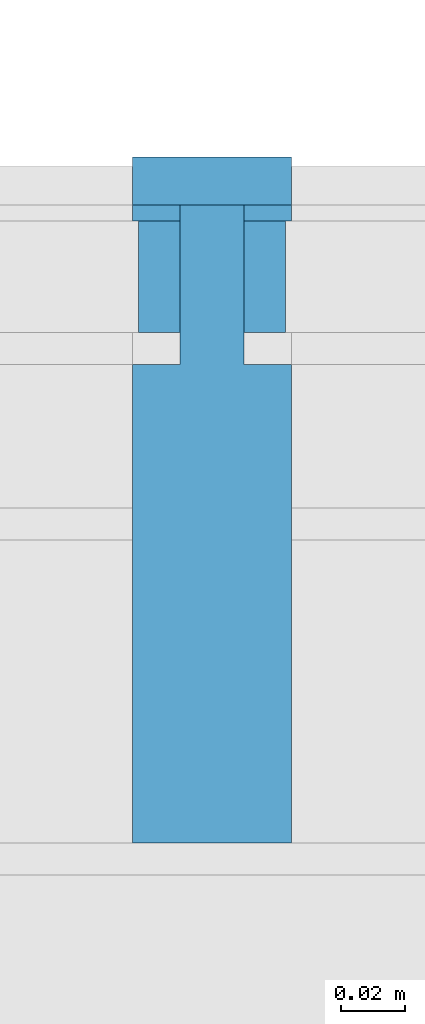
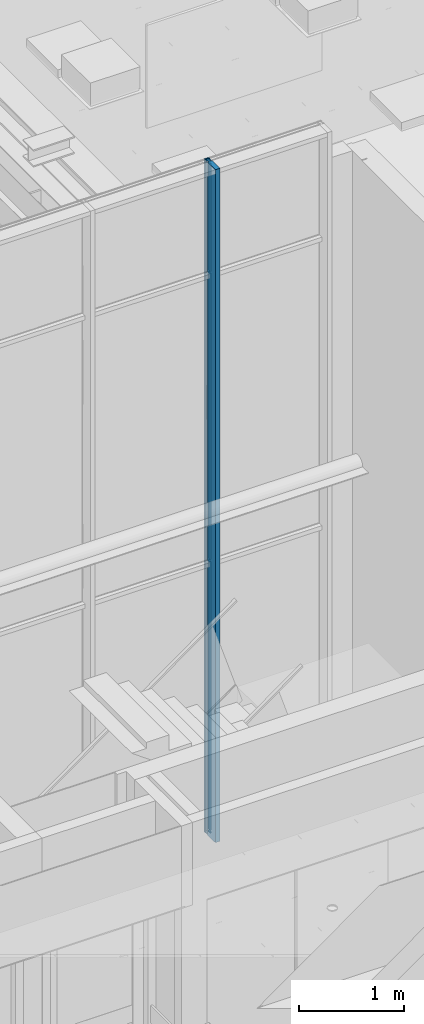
# One storey, part 107 of 347: 6 building element parts, 1 element without a shape of its own.
"""IFC2X3 building model written with IfcOpenShell, lengths in millimetres."""

from ifc_helpers import new_model, entity, si_unit, converted_unit, derived_unit, money_unit, direction, frame, origin_with_axes, place, context, subcontext, project, spatial, faceted_brep, material, type_object, element, aggregate, save


model = new_model("IFC2X3")

# Units and contexts
model_context = context("Model", 3, precision=0.01, world=origin_with_axes(), true_north=direction((0.0, 1.0)))
plan_context = context("Plan", 3, precision=0.01, world=origin_with_axes(), true_north=direction((0.0, 1.0)))
body_context = subcontext(model_context, "Body", "Model", "MODEL_VIEW")
ifc_project = project(units=[si_unit("LENGTHUNIT", "METRE", prefix="MILLI"), si_unit("AREAUNIT", "SQUARE_METRE"), si_unit("VOLUMEUNIT", "CUBIC_METRE"), converted_unit("PLANEANGLEUNIT", "DEGREE", entity("IfcPlaneAngleMeasure", 0.0174532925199), si_unit("PLANEANGLEUNIT", "RADIAN"), dimensions=[0, 0, 0, 0, 0, 0, 0]), money_unit("EUR"), converted_unit("TIMEUNIT", "Year", entity("IfcTimeMeasure", 31556926.0), si_unit("TIMEUNIT", "SECOND"), dimensions=[0, 0, 1, 0, 0, 0, 0]), si_unit("MASSUNIT", "GRAM", prefix="KILO"), si_unit("THERMODYNAMICTEMPERATUREUNIT", "DEGREE_CELSIUS"), si_unit("LUMINOUSINTENSITYUNIT", "LUMEN"), si_unit("ENERGYUNIT", "JOULE", prefix="MEGA"), derived_unit("THERMALCONDUCTANCEUNIT", [(si_unit("POWERUNIT", "WATT"), 1), (si_unit("LENGTHUNIT", "METRE"), -1), (si_unit("THERMODYNAMICTEMPERATUREUNIT", "KELVIN"), -1)]), derived_unit("SPECIFICHEATCAPACITYUNIT", [(si_unit("ENERGYUNIT", "JOULE"), 1), (si_unit("MASSUNIT", "GRAM", prefix="KILO"), -1), (si_unit("THERMODYNAMICTEMPERATUREUNIT", "KELVIN"), -1)]), derived_unit("MASSDENSITYUNIT", [(si_unit("MASSUNIT", "GRAM", prefix="KILO"), 1), (si_unit("VOLUMEUNIT", "CUBIC_METRE"), -1)])], contexts=[model_context, plan_context])

# Site, building, storey
site_placement = place(None, origin_with_axes())
site = spatial("IfcSite", under=ifc_project, at=site_placement, Name="Site", CompositionType="ELEMENT")
building_placement = place(site_placement, origin_with_axes())
building = spatial("IfcBuilding", under=site, at=building_placement, Name="Naam gebouw", CompositionType="ELEMENT")
storey_placement = place(building_placement, origin_with_axes())
storey = spatial("IfcBuildingStorey", under=building, at=storey_placement, Name="begane grond", CompositionType="ELEMENT", Elevation=0.0)

# Column, building element parts
column_type = type_object("IfcColumnType", Name="31 vliesgevelstijl 50 x 215", PredefinedType="COLUMN")
column_placement = place(storey_placement, frame((22575.0, 18400.0, 0.0), z_axis=(0.0, 0.0, 1.0), x_axis=(1.0, 0.0, 0.0)))
column = element("IfcColumn", 1, at=column_placement, inside=storey, type_object=column_type, Name="28_kolom ø 275mm", ObjectType="COLUMN")
ifc_material_1 = material(Name="Membraan - rubber")
building_element_part_1_placement = place(column_placement, origin_with_axes())
building_element_part_1 = element("IfcBuildingElementPart", 2, at=building_element_part_1_placement, material=ifc_material_1, Name="Membraan - rubber", context=body_context, shape_type="Brep", body=[
    faceted_brep([(-9.99999992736, 195.000000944, 7840.0), (-9.99999992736, 195.000000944, 7824.99999994), (-9.99999992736, 200.000001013, 7824.99999994), (-9.99999992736, 200.000000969, 7840.0), (-22.9999999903, 195.000000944, 7840.0), (-22.9999999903, 195.000000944, 7824.99999994), (-25.0, 195.000000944, 7824.99999994), (-25.0, 200.000001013, 7824.99999994), (-25.0, 200.000000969, 7840.0), (-25.0, 195.000000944, 7840.0)], [[[0, 1, 2, 3]], [[4, 5, 1, 0]], [[6, 7, 2, 1, 5]], [[3, 2, 7, 8]], [[3, 8, 9, 4, 0]], [[9, 6, 5, 4]], [[8, 7, 6, 9]]]),
    faceted_brep([(-25.0, 200.000000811, 14.9999997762), (-9.99999992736, 200.000000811, 14.9999997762), (-9.99999992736, 200.000000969, 0.0), (-25.0, 200.000000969, 0.0), (-9.99999992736, 195.000000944, 14.9999997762), (-25.0, 195.000000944, 14.9999997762), (-22.9999999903, 195.000000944, 14.9999997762), (-9.99999992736, 195.000000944, 0.0), (-22.9999999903, 195.000000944, 0.0), (-25.0, 195.000000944, 0.0)], [[[0, 1, 2, 3]], [[4, 1, 0, 5, 6]], [[1, 4, 7, 2]], [[8, 9, 3, 2, 7]], [[5, 0, 3, 9]], [[6, 5, 9, 8]], [[4, 6, 8, 7]]]),
    faceted_brep([(-25.0, 199.9999993, 3165.00000048), (-9.99999992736, 199.9999993, 3165.00000048), (-9.99999992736, 200.000000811, 35.0000005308), (-25.0, 200.000000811, 35.0000005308), (-9.99999992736, 195.000000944, 3165.00000048), (-25.0, 195.000000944, 3165.00000048), (-22.9999999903, 195.000000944, 3165.00000048), (-9.99999992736, 195.000000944, 35.0000005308), (-22.9999999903, 195.000000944, 35.0000005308), (-25.0, 195.000000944, 35.0000005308)], [[[0, 1, 2, 3]], [[4, 1, 0, 5, 6]], [[1, 4, 7, 2]], [[3, 2, 7, 8, 9]], [[5, 0, 3, 9]], [[6, 5, 9, 8]], [[4, 6, 8, 7]]]),
    faceted_brep([(-9.99999992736, 195.000000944, 6545.00000058), (-9.99999992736, 199.9999993, 6545.00000058), (-9.99999992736, 200.000001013, 7804.99999952), (-9.99999992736, 195.000000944, 7804.99999952), (-25.0, 199.9999993, 6545.00000058), (-22.9999999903, 195.000000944, 6545.00000058), (-25.0, 195.000000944, 6545.00000058), (-25.0, 200.000001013, 7804.99999952), (-25.0, 195.000000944, 7804.99999952), (-22.9999999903, 195.000000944, 7804.99999952)], [[[0, 1, 2, 3]], [[4, 1, 0, 5, 6]], [[1, 4, 7, 2]], [[3, 2, 7, 8, 9]], [[5, 0, 3, 9]], [[6, 5, 9, 8]], [[4, 6, 8, 7]]]),
    faceted_brep([(-9.99999992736, 195.000000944, 3185.00000058), (-9.99999992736, 199.9999993, 3185.00000058), (-9.99999992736, 199.9999993, 6525.00000048), (-9.99999992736, 195.000000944, 6525.00000048), (-25.0, 199.9999993, 3185.00000058), (-22.9999999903, 195.000000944, 3185.00000058), (-25.0, 195.000000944, 3185.00000058), (-25.0, 199.9999993, 6525.00000048), (-25.0, 195.000000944, 6525.00000048), (-22.9999999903, 195.000000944, 6525.00000048)], [[[0, 1, 2, 3]], [[4, 1, 0, 5, 6]], [[1, 4, 7, 2]], [[3, 2, 7, 8, 9]], [[5, 0, 3, 9]], [[6, 5, 9, 8]], [[4, 6, 8, 7]]]),
])
building_element_part_2_placement = place(column_placement, origin_with_axes())
building_element_part_2 = element("IfcBuildingElementPart", 3, at=building_element_part_2_placement, material=ifc_material_1, Name="Membraan - rubber", context=body_context, shape_type="Brep", body=[
    faceted_brep([(25.0000002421, 195.000000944, 7840.0), (25.0000002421, 195.000000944, 7824.99999994), (25.0000002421, 200.000001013, 7824.99999994), (25.0000002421, 200.000000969, 7840.0), (23.0000002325, 195.000000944, 7840.0), (23.0000002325, 195.000000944, 7824.99999994), (10.0000001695, 195.000000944, 7824.99999994), (10.0000001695, 200.000001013, 7824.99999994), (10.0000001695, 200.000000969, 7840.0), (10.0000001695, 195.000000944, 7840.0)], [[[0, 1, 2, 3]], [[4, 5, 1, 0]], [[6, 7, 2, 1, 5]], [[3, 2, 7, 8]], [[0, 3, 8, 9, 4]], [[9, 6, 5, 4]], [[8, 7, 6, 9]]]),
    faceted_brep([(10.0000001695, 200.000000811, 14.9999997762), (25.0000002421, 200.000000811, 14.9999997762), (25.0000002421, 200.000000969, 0.0), (10.0000001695, 200.000000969, 0.0), (25.0000002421, 195.000000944, 14.9999997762), (10.0000001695, 195.000000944, 14.9999997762), (23.0000002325, 195.000000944, 14.9999997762), (25.0000002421, 195.000000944, 0.0), (10.0000001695, 195.000000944, 0.0), (23.0000002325, 195.000000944, 0.0)], [[[0, 1, 2, 3]], [[4, 1, 0, 5, 6]], [[1, 4, 7, 2]], [[8, 3, 2, 7, 9]], [[5, 0, 3, 8]], [[6, 5, 8, 9]], [[4, 6, 9, 7]]]),
    faceted_brep([(10.0000001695, 199.9999993, 3165.00000048), (25.0000002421, 199.9999993, 3165.00000048), (25.0000002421, 200.000000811, 35.0000005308), (10.0000001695, 200.000000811, 35.0000005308), (25.0000002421, 195.000000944, 3165.00000048), (10.0000001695, 195.000000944, 3165.00000048), (23.0000002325, 195.000000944, 3165.00000048), (25.0000002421, 195.000000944, 35.0000005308), (23.0000002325, 195.000000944, 35.0000005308), (10.0000001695, 195.000000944, 35.0000005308)], [[[0, 1, 2, 3]], [[4, 1, 0, 5, 6]], [[1, 4, 7, 2]], [[3, 2, 7, 8, 9]], [[5, 0, 3, 9]], [[6, 5, 9, 8]], [[4, 6, 8, 7]]]),
    faceted_brep([(25.0000002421, 195.000000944, 6545.00000058), (25.0000002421, 199.9999993, 6545.00000058), (25.0000002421, 200.000001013, 7804.99999952), (25.0000002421, 195.000000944, 7804.99999952), (10.0000001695, 199.9999993, 6545.00000058), (23.0000002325, 195.000000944, 6545.00000058), (10.0000001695, 195.000000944, 6545.00000058), (10.0000001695, 200.000001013, 7804.99999952), (10.0000001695, 195.000000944, 7804.99999952), (23.0000002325, 195.000000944, 7804.99999952)], [[[0, 1, 2, 3]], [[4, 1, 0, 5, 6]], [[1, 4, 7, 2]], [[3, 2, 7, 8, 9]], [[5, 0, 3, 9]], [[6, 5, 9, 8]], [[4, 6, 8, 7]]]),
    faceted_brep([(25.0000002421, 195.000000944, 3185.00000058), (25.0000002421, 199.9999993, 3185.00000058), (25.0000002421, 199.9999993, 6525.00000048), (25.0000002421, 195.000000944, 6525.00000048), (10.0000001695, 199.9999993, 3185.00000058), (23.0000002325, 195.000000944, 3185.00000058), (10.0000001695, 195.000000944, 3185.00000058), (10.0000001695, 199.9999993, 6525.00000048), (10.0000001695, 195.000000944, 6525.00000048), (23.0000002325, 195.000000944, 6525.00000048)], [[[0, 1, 2, 3]], [[4, 1, 0, 5, 6]], [[1, 4, 7, 2]], [[3, 2, 7, 8, 9]], [[5, 0, 3, 9]], [[6, 5, 9, 8]], [[4, 6, 8, 7]]]),
])
building_element_part_3_placement = place(column_placement, origin_with_axes())
building_element_part_3 = element("IfcBuildingElementPart", 4, at=building_element_part_3_placement, material=ifc_material_1, Name="Membraan - rubber", context=body_context, shape_type="Brep", body=[
    faceted_brep([(23.0000002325, 160.000000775, 7840.0), (23.0000002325, 160.000000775, 7824.99999994), (23.0000002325, 195.000000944, 7824.99999994), (23.0000002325, 195.000000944, 7840.0), (10.0000001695, 160.000000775, 7840.0), (10.0000001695, 160.000000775, 7824.99999994), (10.0000001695, 195.000000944, 7824.99999994), (10.0000001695, 195.000000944, 7840.0)], [[[0, 1, 2, 3]], [[4, 5, 1, 0]], [[5, 6, 2, 1]], [[3, 2, 6, 7]], [[0, 3, 7, 4]], [[7, 6, 5, 4]]]),
    faceted_brep([(10.0000001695, 195.000000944, 14.9999997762), (23.0000002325, 195.000000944, 14.9999997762), (23.0000002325, 195.000000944, 0.0), (10.0000001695, 195.000000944, 0.0), (23.0000002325, 160.000000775, 14.9999997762), (10.0000001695, 160.000000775, 14.9999997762), (23.0000002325, 160.000000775, 0.0), (10.0000001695, 160.000000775, 0.0)], [[[0, 1, 2, 3]], [[4, 1, 0, 5]], [[1, 4, 6, 2]], [[7, 3, 2, 6]], [[5, 0, 3, 7]], [[4, 5, 7, 6]]]),
    faceted_brep([(10.0000001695, 195.000000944, 3165.00000048), (23.0000002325, 195.000000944, 3165.00000048), (23.0000002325, 195.000000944, 35.0000005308), (10.0000001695, 195.000000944, 35.0000005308), (23.0000002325, 160.000000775, 3165.00000048), (10.0000001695, 160.000000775, 3165.00000048), (23.0000002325, 160.000000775, 35.0000005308), (10.0000001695, 160.000000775, 35.0000005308)], [[[0, 1, 2, 3]], [[4, 1, 0, 5]], [[1, 4, 6, 2]], [[3, 2, 6, 7]], [[5, 0, 3, 7]], [[4, 5, 7, 6]]]),
    faceted_brep([(23.0000002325, 160.000000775, 6545.00000058), (23.0000002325, 195.000000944, 6545.00000058), (23.0000002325, 195.000000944, 7804.99999952), (23.0000002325, 160.000000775, 7804.99999952), (10.0000001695, 195.000000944, 6545.00000058), (10.0000001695, 160.000000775, 6545.00000058), (10.0000001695, 195.000000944, 7804.99999952), (10.0000001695, 160.000000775, 7804.99999952)], [[[0, 1, 2, 3]], [[4, 1, 0, 5]], [[1, 4, 6, 2]], [[3, 2, 6, 7]], [[5, 0, 3, 7]], [[4, 5, 7, 6]]]),
    faceted_brep([(23.0000002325, 160.000000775, 3185.00000058), (23.0000002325, 195.000000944, 3185.00000058), (23.0000002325, 195.000000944, 6525.00000048), (23.0000002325, 160.000000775, 6525.00000048), (10.0000001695, 195.000000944, 3185.00000058), (10.0000001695, 160.000000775, 3185.00000058), (10.0000001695, 195.000000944, 6525.00000048), (10.0000001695, 160.000000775, 6525.00000048)], [[[0, 1, 2, 3]], [[4, 1, 0, 5]], [[1, 4, 6, 2]], [[3, 2, 6, 7]], [[5, 0, 3, 7]], [[4, 5, 7, 6]]]),
])
building_element_part_4_placement = place(column_placement, origin_with_axes())
building_element_part_4 = element("IfcBuildingElementPart", 5, at=building_element_part_4_placement, material=ifc_material_1, Name="Membraan - rubber", context=body_context, shape_type="Brep", body=[
    faceted_brep([(-9.99999992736, 160.000000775, 7840.0), (-9.99999992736, 160.000000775, 7824.99999994), (-9.99999992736, 195.000000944, 7824.99999994), (-9.99999992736, 195.000000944, 7840.0), (-22.9999999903, 160.000000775, 7840.0), (-22.9999999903, 160.000000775, 7824.99999994), (-22.9999999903, 195.000000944, 7824.99999994), (-22.9999999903, 195.000000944, 7840.0)], [[[0, 1, 2, 3]], [[4, 5, 1, 0]], [[5, 6, 2, 1]], [[3, 2, 6, 7]], [[0, 3, 7, 4]], [[7, 6, 5, 4]]]),
    faceted_brep([(-22.9999999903, 195.000000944, 14.9999997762), (-9.99999992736, 195.000000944, 14.9999997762), (-9.99999992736, 195.000000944, 0.0), (-22.9999999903, 195.000000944, 0.0), (-9.99999992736, 160.000000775, 14.9999997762), (-22.9999999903, 160.000000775, 14.9999997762), (-9.99999992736, 160.000000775, 0.0), (-22.9999999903, 160.000000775, 0.0)], [[[0, 1, 2, 3]], [[4, 1, 0, 5]], [[1, 4, 6, 2]], [[7, 3, 2, 6]], [[5, 0, 3, 7]], [[4, 5, 7, 6]]]),
    faceted_brep([(-22.9999999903, 195.000000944, 3165.00000048), (-9.99999992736, 195.000000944, 3165.00000048), (-9.99999992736, 195.000000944, 35.0000005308), (-22.9999999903, 195.000000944, 35.0000005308), (-9.99999992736, 160.000000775, 3165.00000048), (-22.9999999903, 160.000000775, 3165.00000048), (-9.99999992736, 160.000000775, 35.0000005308), (-22.9999999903, 160.000000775, 35.0000005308)], [[[0, 1, 2, 3]], [[4, 1, 0, 5]], [[1, 4, 6, 2]], [[3, 2, 6, 7]], [[5, 0, 3, 7]], [[4, 5, 7, 6]]]),
    faceted_brep([(-9.99999992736, 160.000000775, 6545.00000058), (-9.99999992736, 195.000000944, 6545.00000058), (-9.99999992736, 195.000000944, 7804.99999952), (-9.99999992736, 160.000000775, 7804.99999952), (-22.9999999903, 195.000000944, 6545.00000058), (-22.9999999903, 160.000000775, 6545.00000058), (-22.9999999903, 195.000000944, 7804.99999952), (-22.9999999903, 160.000000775, 7804.99999952)], [[[0, 1, 2, 3]], [[4, 1, 0, 5]], [[1, 4, 6, 2]], [[3, 2, 6, 7]], [[5, 0, 3, 7]], [[4, 5, 7, 6]]]),
    faceted_brep([(-9.99999992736, 160.000000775, 3185.00000058), (-9.99999992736, 195.000000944, 3185.00000058), (-9.99999992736, 195.000000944, 6525.00000048), (-9.99999992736, 160.000000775, 6525.00000048), (-22.9999999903, 195.000000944, 3185.00000058), (-22.9999999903, 160.000000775, 3185.00000058), (-22.9999999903, 195.000000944, 6525.00000048), (-22.9999999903, 160.000000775, 6525.00000048)], [[[0, 1, 2, 3]], [[4, 1, 0, 5]], [[1, 4, 6, 2]], [[3, 2, 6, 7]], [[5, 0, 3, 7]], [[4, 5, 7, 6]]]),
])
ifc_material_2 = material(Name="Metaal - Aluminium")
building_element_part_5_placement = place(column_placement, origin_with_axes())
building_element_part_5 = element("IfcBuildingElementPart", 6, at=building_element_part_5_placement, material=ifc_material_2, Name="Metaal - Aluminium", context=body_context, shape_type="Brep", body=[
    faceted_brep([(25.0000010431, 0.0, 7840.0), (-25.0, 0.0, 7840.0), (-25.0, 0.0, 0.0), (25.0000010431, 0.0, 0.0), (-10.0000009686, 149.999999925, 7840.0), (-25.0, 149.999999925, 7840.0), (25.0000010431, 149.999999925, 7840.0), (9.99999880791, 149.999999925, 7840.0), (9.99999880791, 200.000000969, 7840.0), (-10.0000009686, 200.000000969, 7840.0), (-25.0, 149.999999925, 0.0), (25.0000010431, 149.999999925, 0.0), (-10.0000009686, 149.999999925, 0.0), (-10.0000009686, 200.000000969, 0.0), (9.99999880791, 200.000000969, 0.0), (9.99999880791, 149.999999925, 0.0)], [[[0, 1, 2, 3]], [[4, 5, 1, 0, 6, 7, 8, 9]], [[1, 5, 10, 2]], [[11, 3, 2, 10, 12, 13, 14, 15]], [[6, 0, 3, 11]], [[5, 4, 12, 10]], [[7, 6, 11, 15]], [[8, 7, 15, 14]], [[9, 8, 14, 13]], [[4, 9, 13, 12]]]),
])
building_element_part_6_placement = place(column_placement, origin_with_axes())
building_element_part_6 = element("IfcBuildingElementPart", 7, at=building_element_part_6_placement, material=ifc_material_2, Name="Metaal - Aluminium", context=body_context, shape_type="Brep", body=[
    faceted_brep([(-25.0, 215.0, 7840.0), (-25.0, 215.0, 0.0), (-25.0, 200.0, 0.0), (-25.0, 200.0, 7840.0), (25.0, 215.0, 7840.0), (25.0, 215.0, 0.0), (25.0, 200.0, 0.0), (25.0, 200.0, 7840.0)], [[[0, 1, 2, 3]], [[4, 5, 1, 0]], [[2, 1, 5, 6]], [[3, 2, 6, 7]], [[4, 0, 3, 7]], [[7, 6, 5, 4]]]),
])
aggregate(column, [building_element_part_1, building_element_part_2, building_element_part_3, building_element_part_4, building_element_part_5, building_element_part_6])

save(model, "model.ifc")
